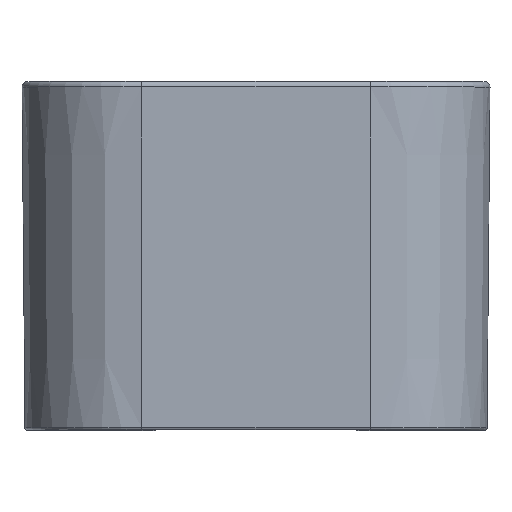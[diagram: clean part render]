
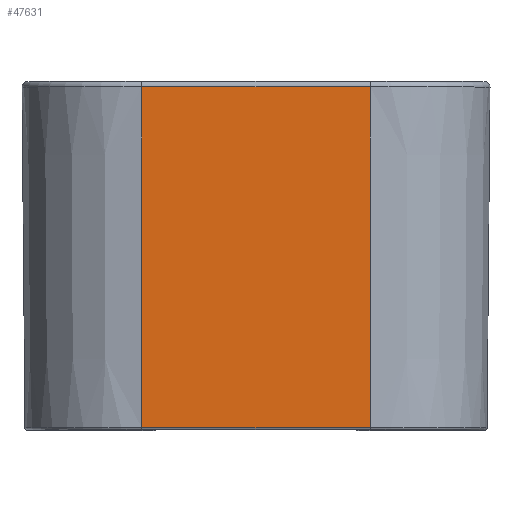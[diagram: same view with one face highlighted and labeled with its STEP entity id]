
A CAD part, top view. The second image highlights one B-rep face of the part: STEP entity #47631.
In plain terms, the highlighted planar face has unit normal (0, -0.009, 1).
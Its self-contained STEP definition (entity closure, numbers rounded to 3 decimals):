
#1700 = VECTOR ( 'NONE', #15809, 1000. ) ;
#4413 = DIRECTION ( 'NONE',  ( 0., -1., -0.009 ) ) ;
#5898 = VECTOR ( 'NONE', #4413, 1000. ) ;
#7832 = DIRECTION ( 'NONE',  ( -1., 0., 0. ) ) ;
#8009 = DIRECTION ( 'NONE',  ( 0., -1., -0.009 ) ) ;
#10303 = CARTESIAN_POINT ( 'NONE',  ( 105., 0., 160. ) ) ;
#12308 = DIRECTION ( 'NONE',  ( 0., -1., -0.009 ) ) ;
#12367 = CARTESIAN_POINT ( 'NONE',  ( -215., 0., 160. ) ) ;
#12668 = DIRECTION ( 'NONE',  ( 0., -0.009, 1. ) ) ;
#13280 = AXIS2_PLACEMENT_3D ( 'NONE', #12367, #12668, #8009 ) ;
#15809 = DIRECTION ( 'NONE',  ( 1., 0., 0. ) ) ;
#16238 = VERTEX_POINT ( 'NONE', #32846 ) ;
#18359 = ORIENTED_EDGE ( 'NONE', *, *, #35296, .T. ) ;
#20325 = ORIENTED_EDGE ( 'NONE', *, *, #30214, .T. ) ;
#21661 = FACE_OUTER_BOUND ( 'NONE', #29421, .T. ) ;
#22831 = EDGE_CURVE ( 'NONE', #16238, #38403, #24246, .T. ) ;
#24246 = LINE ( 'NONE', #10303, #5898 ) ;
#26439 = LINE ( 'NONE', #50618, #28044 ) ;
#27528 = PLANE ( 'NONE',  #13280 ) ;
#28044 = VECTOR ( 'NONE', #7832, 1000. ) ;
#28302 = VERTEX_POINT ( 'NONE', #39571 ) ;
#29421 = EDGE_LOOP ( 'NONE', ( #18359, #20325, #47417, #56348 ) ) ;
#29994 = LINE ( 'NONE', #44265, #54042 ) ;
#30214 = EDGE_CURVE ( 'NONE', #32730, #38403, #40858, .T. ) ;
#32730 = VERTEX_POINT ( 'NONE', #39061 ) ;
#32846 = CARTESIAN_POINT ( 'NONE',  ( 105., -5.044, 159.956 ) ) ;
#35296 = EDGE_CURVE ( 'NONE', #28302, #32730, #29994, .T. ) ;
#38403 = VERTEX_POINT ( 'NONE', #49782 ) ;
#39061 = CARTESIAN_POINT ( 'NONE',  ( -105., -318.017, 157.225 ) ) ;
#39571 = CARTESIAN_POINT ( 'NONE',  ( -105., -5.044, 159.956 ) ) ;
#39720 = EDGE_CURVE ( 'NONE', #16238, #28302, #26439, .T. ) ;
#40858 = LINE ( 'NONE', #53653, #1700 ) ;
#44265 = CARTESIAN_POINT ( 'NONE',  ( -105., 0., 160. ) ) ;
#47417 = ORIENTED_EDGE ( 'NONE', *, *, #22831, .F. ) ;
#47631 = ADVANCED_FACE ( 'Faccia22', ( #21661 ), #27528, .T. ) ;
#49782 = CARTESIAN_POINT ( 'NONE',  ( 105., -318.017, 157.225 ) ) ;
#50618 = CARTESIAN_POINT ( 'NONE',  ( -215., -5.044, 159.956 ) ) ;
#53653 = CARTESIAN_POINT ( 'NONE',  ( 0., -318.017, 157.225 ) ) ;
#54042 = VECTOR ( 'NONE', #12308, 1000. ) ;
#56348 = ORIENTED_EDGE ( 'NONE', *, *, #39720, .T. ) ;
